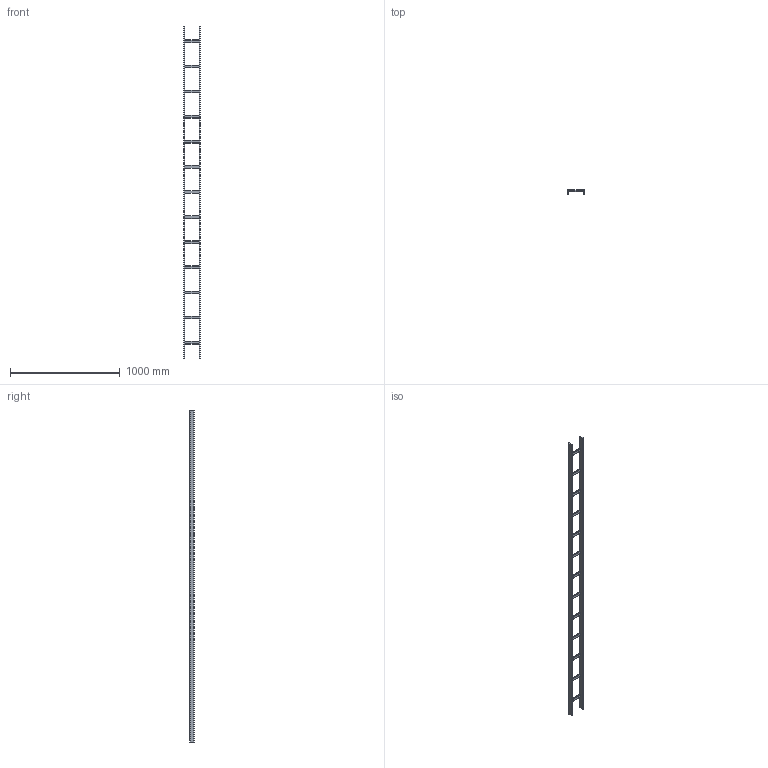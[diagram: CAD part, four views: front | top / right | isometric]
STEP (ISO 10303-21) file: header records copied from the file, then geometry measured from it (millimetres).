
FILE_DESCRIPTION (( 'STEP AP203' ), '1' );
FILE_NAME ('lss6w.STEP', '2015-05-08T15:38:28', ( '' ), ( '' ), 'SwSTEP 2.0', 'SolidWorks 2010', '' );
FILE_SCHEMA (( 'CONFIG_CONTROL_DESIGN' ));
Length unit declared in the file: inch
Products named in the file (1): lss6w
Bounding box: 152.4 x 38.1 x 3022.6 mm (x, y, z)
Volume: 913133.5 mm3; surface area: 1314708.1 mm2
Topology: 1 solids, 14 shells, 230 faces, 646 edges, 420 vertices
Faces by surface type: plane 162, cylinder 64, bspline 4
Entity records: 7607 total; most frequent: CARTESIAN_POINT 1497, ORIENTED_EDGE 1292, DIRECTION 1228, EDGE_CURVE 646, VECTOR 462, LINE 462, VERTEX_POINT 420, AXIS2_PLACEMENT_3D 383
